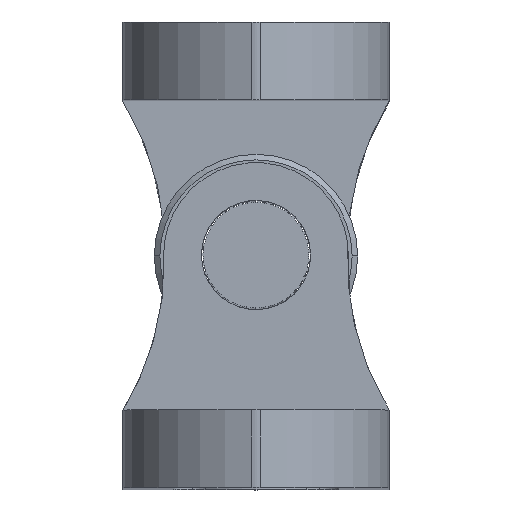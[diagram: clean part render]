
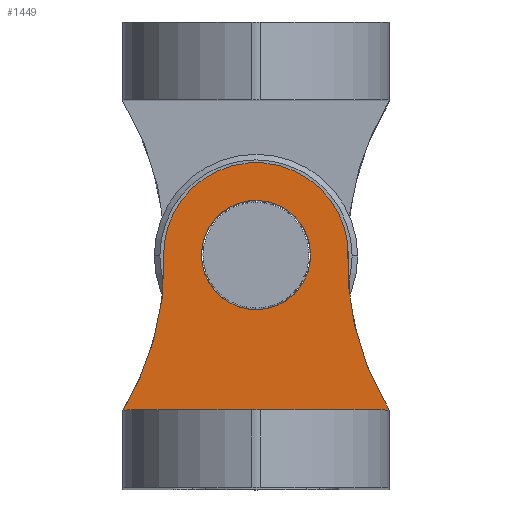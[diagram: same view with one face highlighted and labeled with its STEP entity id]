
A CAD part, top view. The second image highlights one B-rep face of the part: STEP entity #1449.
In plain terms, the highlighted planar face has unit normal (0, 0, 1).
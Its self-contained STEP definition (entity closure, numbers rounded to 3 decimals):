
#38 = B_SPLINE_CURVE_WITH_KNOTS ( 'NONE', 2,
 ( #6395, #7641, #6315 ),
 .UNSPECIFIED., .F., .F.,
 ( 3, 3 ),
 ( 0.499, 0.5 ),
 .UNSPECIFIED. ) ;
#288 = EDGE_CURVE ( 'NONE', #3971, #5255, #38, .T. ) ;
#343 = VERTEX_POINT ( 'NONE', #1660 ) ;
#356 = EDGE_LOOP ( 'NONE', ( #5475, #4644, #6836, #592 ) ) ;
#360 = FACE_OUTER_BOUND ( 'NONE', #356, .T. ) ;
#469 = CARTESIAN_POINT ( 'NONE',  ( -2.95, 0., 69.5 ) ) ;
#473 = CIRCLE ( 'NONE', #3225, 2.95 ) ;
#495 = DIRECTION ( 'NONE',  ( 1., 0., 0. ) ) ;
#542 = VERTEX_POINT ( 'NONE', #6127 ) ;
#592 = ORIENTED_EDGE ( 'NONE', *, *, #4476, .T. ) ;
#683 = FACE_BOUND ( 'NONE', #6599, .T. ) ;
#928 = CARTESIAN_POINT ( 'NONE',  ( 7.2, -8.385, 69.5 ) ) ;
#1092 = CIRCLE ( 'NONE', #6980, 5. ) ;
#1377 = DIRECTION ( 'NONE',  ( 1., 0., 0. ) ) ;
#1421 = ORIENTED_EDGE ( 'NONE', *, *, #3219, .F. ) ;
#1449 = ADVANCED_FACE ( 'NONE', ( #683, #360 ), #7539, .T. ) ;
#1522 = DIRECTION ( 'NONE',  ( 0., 0., 1. ) ) ;
#1660 = CARTESIAN_POINT ( 'NONE',  ( 4.963, 0.606, 69.5 ) ) ;
#1784 = EDGE_CURVE ( 'NONE', #4446, #343, #7307, .T. ) ;
#2084 = AXIS2_PLACEMENT_3D ( 'NONE', #2995, #3140, #1377 ) ;
#2146 = DIRECTION ( 'NONE',  ( 1., 0., 0. ) ) ;
#2327 = DIRECTION ( 'NONE',  ( 1., 0., 0. ) ) ;
#2435 = EDGE_CURVE ( 'NONE', #542, #5943, #3593, .T. ) ;
#2995 = CARTESIAN_POINT ( 'NONE',  ( 0., 0., 69.5 ) ) ;
#3140 = DIRECTION ( 'NONE',  ( 0., 0., 1. ) ) ;
#3219 = EDGE_CURVE ( 'NONE', #5943, #542, #473, .T. ) ;
#3225 = AXIS2_PLACEMENT_3D ( 'NONE', #5883, #5950, #495 ) ;
#3591 = VECTOR ( 'NONE', #6462, 1000. ) ;
#3593 = CIRCLE ( 'NONE', #2084, 2.95 ) ;
#3971 = VERTEX_POINT ( 'NONE', #4491 ) ;
#4111 = CARTESIAN_POINT ( 'NONE',  ( 0., 0., 69.5 ) ) ;
#4231 = LINE ( 'NONE', #5884, #3591 ) ;
#4446 = VERTEX_POINT ( 'NONE', #928 ) ;
#4476 = EDGE_CURVE ( 'NONE', #343, #3971, #1092, .T. ) ;
#4491 = CARTESIAN_POINT ( 'NONE',  ( -4.963, 0.606, 69.5 ) ) ;
#4558 = EDGE_CURVE ( 'NONE', #5255, #4446, #4231, .T. ) ;
#4590 = CARTESIAN_POINT ( 'NONE',  ( -5.645, -4.965, 69.5 ) ) ;
#4644 = ORIENTED_EDGE ( 'NONE', *, *, #4558, .T. ) ;
#5024 = CARTESIAN_POINT ( 'NONE',  ( 4.723, -4.315, 69.5 ) ) ;
#5154 = ORIENTED_EDGE ( 'NONE', *, *, #2435, .F. ) ;
#5255 = VERTEX_POINT ( 'NONE', #6917 ) ;
#5448 = DIRECTION ( 'NONE',  ( 0., 0., 1. ) ) ;
#5475 = ORIENTED_EDGE ( 'NONE', *, *, #288, .T. ) ;
#5883 = CARTESIAN_POINT ( 'NONE',  ( 0., 0., 69.5 ) ) ;
#5884 = CARTESIAN_POINT ( 'NONE',  ( -7.2, -8.385, 69.5 ) ) ;
#5943 = VERTEX_POINT ( 'NONE', #469 ) ;
#5950 = DIRECTION ( 'NONE',  ( 0., 0., 1. ) ) ;
#6127 = CARTESIAN_POINT ( 'NONE',  ( 2.95, 0., 69.5 ) ) ;
#6315 = CARTESIAN_POINT ( 'NONE',  ( -7.2, -8.385, 69.5 ) ) ;
#6395 = CARTESIAN_POINT ( 'NONE',  ( -4.963, 0.606, 69.5 ) ) ;
#6462 = DIRECTION ( 'NONE',  ( 1., 0., 0. ) ) ;
#6599 = EDGE_LOOP ( 'NONE', ( #1421, #5154 ) ) ;
#6752 = CARTESIAN_POINT ( 'NONE',  ( 4.963, 0.606, 69.5 ) ) ;
#6836 = ORIENTED_EDGE ( 'NONE', *, *, #1784, .T. ) ;
#6917 = CARTESIAN_POINT ( 'NONE',  ( -7.2, -8.385, 69.5 ) ) ;
#6980 = AXIS2_PLACEMENT_3D ( 'NONE', #4111, #5448, #2327 ) ;
#7307 = B_SPLINE_CURVE_WITH_KNOTS ( 'NONE', 2,
 ( #7484, #5024, #6752 ),
 .UNSPECIFIED., .F., .F.,
 ( 3, 3 ),
 ( 0.5, 0.501 ),
 .UNSPECIFIED. ) ;
#7435 = AXIS2_PLACEMENT_3D ( 'NONE', #4590, #1522, #2146 ) ;
#7484 = CARTESIAN_POINT ( 'NONE',  ( 7.2, -8.385, 69.5 ) ) ;
#7539 = PLANE ( 'NONE',  #7435 ) ;
#7641 = CARTESIAN_POINT ( 'NONE',  ( -4.723, -4.315, 69.5 ) ) ;
